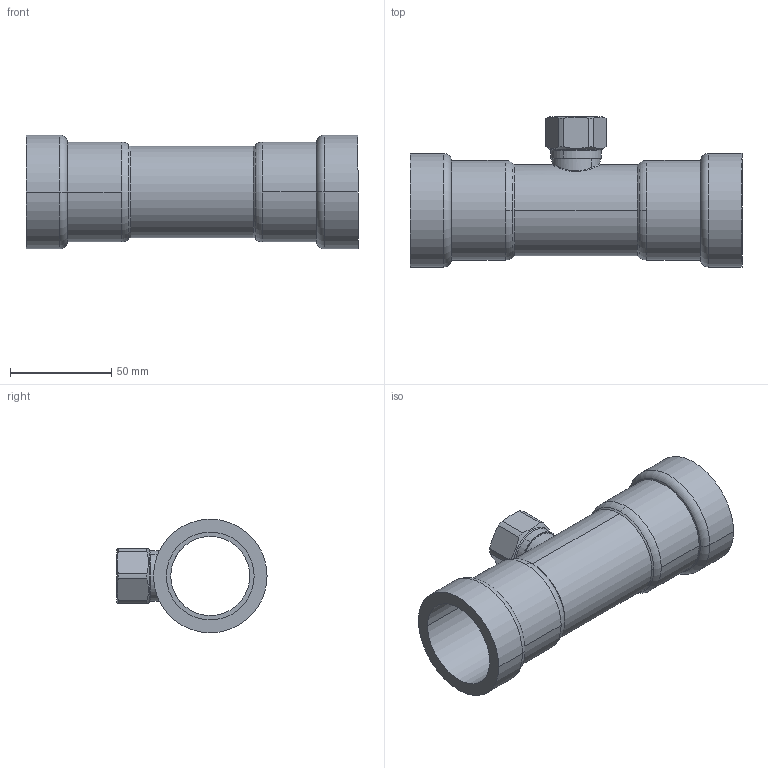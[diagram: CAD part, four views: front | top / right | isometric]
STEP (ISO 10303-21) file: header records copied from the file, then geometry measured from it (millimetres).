
FILE_DESCRIPTION(('Creo Elements/Direct Modeling STEP Export'),'2;1');
FILE_NAME('C9418_1-1-4_Rp1-2_1-1-4.stp','2020-07-17T 9:02:52',(''),(''),'PTC Creo Elements/Direct Modeling STEP processor for AP214 (Solid Model)','PTC Creo Elements/Direct Modeling 19.0C 15-Aug-2015 (C) Parametric Technology GmbH','');
FILE_SCHEMA(('AUTOMOTIVE_DESIGN { 1 0 10303 214 1 1 1 1 }'));
Length unit declared in the file: millimetre
Products named in the file (2): C9418_1-1-4_Rp1-2_1-1-4
Assembly tree (1 placements, depth 2):
  C9418_1-1-4_Rp1-2_1-1-4
    C9418_1-1-4_Rp1-2_1-1-4
Bounding box: 163.66 x 74 x 56 mm (x, y, z)
Volume: 95793.5 mm3; surface area: 53414.7 mm2
Topology: 1 solids, 1 shells, 82 faces, 220 edges, 144 vertices
Faces by surface type: cylinder 32, cone 20, torus 14, plane 12, bspline 4
Entity records: 5891 total; most frequent: CARTESIAN_POINT 3956, ORIENTED_EDGE 440, DIRECTION 358, EDGE_CURVE 220, AXIS2_PLACEMENT_3D 150, VERTEX_POINT 144, EDGE_LOOP 90, FACE_OUTER_BOUND 82
